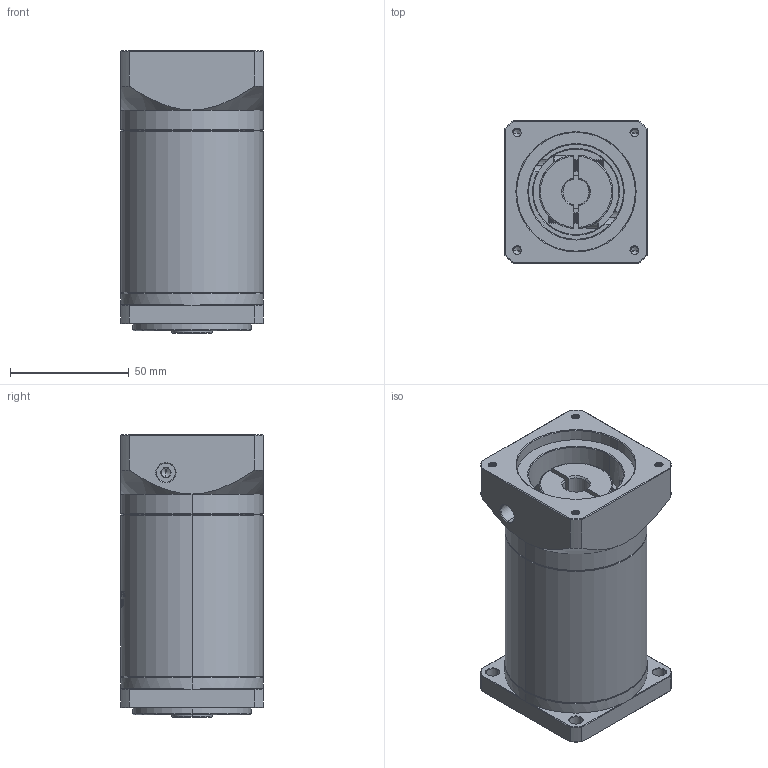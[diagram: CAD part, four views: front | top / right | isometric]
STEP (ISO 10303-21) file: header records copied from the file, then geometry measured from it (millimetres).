
FILE_DESCRIPTION (( 'STEP AP214' ), '1' );
FILE_NAME ('ZF60-K10-L3-11-50-70-M4.STEP', '2022-04-17T11:37:51', ( '' ), ( 'Microsoft' ), 'SwSTEP 2.0', 'SolidWorks 2016', '' );
FILE_SCHEMA (( 'AUTOMOTIVE_DESIGN' ));
Length unit declared in the file: millimetre
Products named in the file (1): ZF60-K10-L3-11-50-70-M4
Bounding box: 60 x 60 x 119 mm (x, y, z)
Volume: 313663.3 mm3; surface area: 49298 mm2
Topology: 6 solids, 6 shells, 1559 faces, 4216 edges, 2732 vertices
Faces by surface type: plane 737, bspline 292, cylinder 284, cone 228, torus 18
Entity records: 82839 total; most frequent: CARTESIAN_POINT 29873, ORIENTED_EDGE 8408, DIRECTION 6221, EDGE_CURVE 4204, VERTEX_POINT 2732, LINE 2157, VECTOR 2157, AXIS2_PLACEMENT_3D 2032
